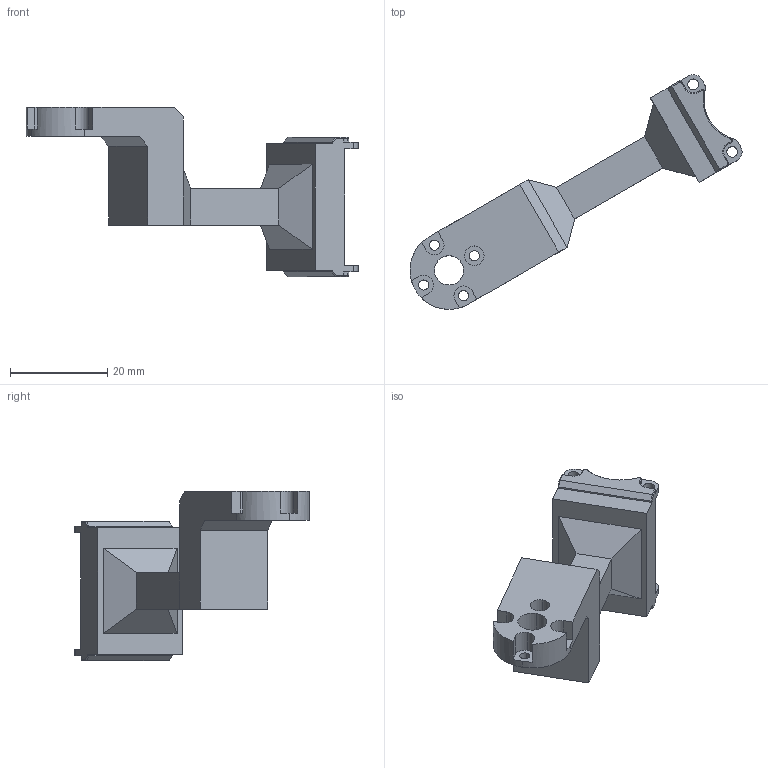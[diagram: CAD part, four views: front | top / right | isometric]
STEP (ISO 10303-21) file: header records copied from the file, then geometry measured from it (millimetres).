
FILE_DESCRIPTION (( 'STEP AP214' ), '1' );
FILE_NAME ('middle_2.STEP', '2026-09-17T13:02:13', ( '' ), ( '' ), 'SwSTEP 2.0', 'SolidWorks 2024', '' );
FILE_SCHEMA (( 'AUTOMOTIVE_DESIGN' ));
Length unit declared in the file: millimetre
Products named in the file (2): 零件1^连杆装配体_默认; middle_2
Assembly tree (1 placements, depth 2):
  middle_2
    零件1^连杆装配体_默认
Bounding box: 68.13 x 48.18 x 34.8 mm (x, y, z)
Volume: 11240.7 mm3; surface area: 5289.5 mm2
Topology: 1 solids, 1 shells, 153 faces, 408 edges, 259 vertices
Faces by surface type: plane 87, cylinder 48, cone 18
Entity records: 4831 total; most frequent: DIRECTION 852, CARTESIAN_POINT 824, ORIENTED_EDGE 816, EDGE_CURVE 408, AXIS2_PLACEMENT_3D 287, LINE 278, VECTOR 278, VERTEX_POINT 259
